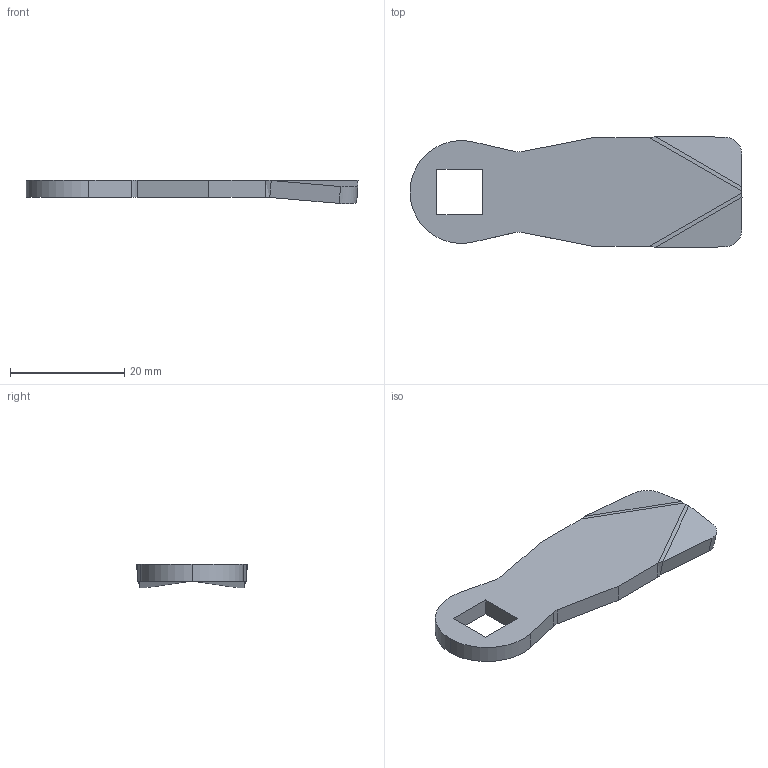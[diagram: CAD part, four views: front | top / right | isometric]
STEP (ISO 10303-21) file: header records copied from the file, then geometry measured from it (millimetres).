
FILE_DESCRIPTION (( 'STEP AP214' ), '1' );
FILE_NAME ('J-10018.STEP', '2010-03-02T19:14:17', ( '£ukaszC' ), ( '' ), 'SwSTEP 2.0', 'SolidWorks 2008', '' );
FILE_SCHEMA (( 'AUTOMOTIVE_DESIGN' ));
Length unit declared in the file: millimetre
Products named in the file (1): J-10018
Bounding box: 58.11 x 19.4 x 4.14 mm (x, y, z)
Volume: 2782.9 mm3; surface area: 2382 mm2
Topology: 1 solids, 1 shells, 35 faces, 83 edges, 50 vertices
Faces by surface type: plane 21, cylinder 10, bspline 4
Entity records: 1032 total; most frequent: CARTESIAN_POINT 237, ORIENTED_EDGE 166, DIRECTION 143, EDGE_CURVE 83, VECTOR 55, LINE 55, VERTEX_POINT 50, AXIS2_PLACEMENT_3D 44
